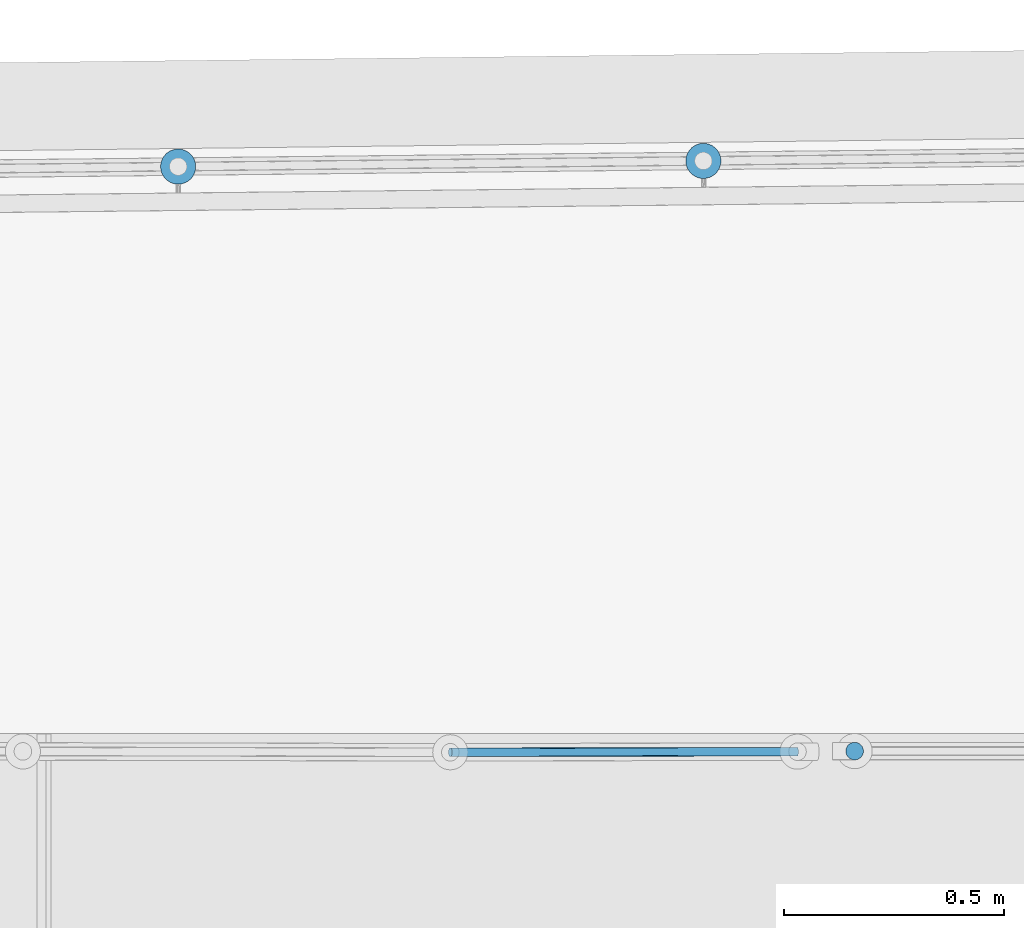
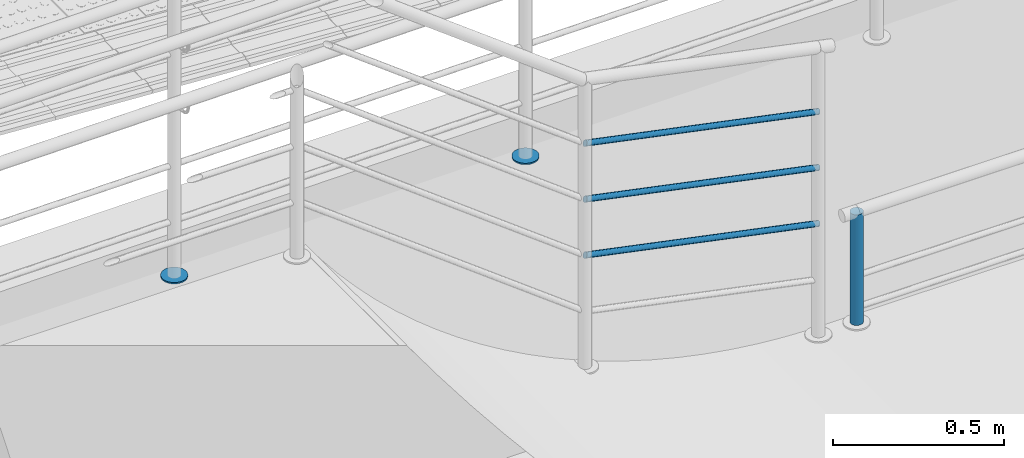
# One storey, part 97 of 237: 6 building element parts, 3 elements without a shape of their own.
"""IFC2X3 building model written with IfcOpenShell, lengths in millimetres."""

from ifc_helpers import new_model, entity, si_unit, converted_unit, derived_unit, money_unit, direction, frame, origin_with_axes, place, context, subcontext, project, spatial, faceted_brep, material, type_object, element, aggregate, save


model = new_model("IFC2X3")

# Units and contexts
model_context = context("Model", 3, precision=0.01, world=origin_with_axes(), true_north=direction((0.0, 1.0)))
body_context = subcontext(model_context, "Body", "Model", "MODEL_VIEW")
ifc_project = project(units=[si_unit("LENGTHUNIT", "METRE", prefix="MILLI"), si_unit("AREAUNIT", "SQUARE_METRE"), si_unit("VOLUMEUNIT", "CUBIC_METRE"), converted_unit("PLANEANGLEUNIT", "DEGREE", entity("IfcPlaneAngleMeasure", 0.0174532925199), si_unit("PLANEANGLEUNIT", "RADIAN"), dimensions=[0, 0, 0, 0, 0, 0, 0]), money_unit("USD"), converted_unit("TIMEUNIT", "Year", entity("IfcTimeMeasure", 31556926.0), si_unit("TIMEUNIT", "SECOND"), dimensions=[0, 0, 1, 0, 0, 0, 0]), si_unit("MASSUNIT", "GRAM", prefix="KILO"), si_unit("THERMODYNAMICTEMPERATUREUNIT", "DEGREE_CELSIUS"), si_unit("LUMINOUSINTENSITYUNIT", "LUMEN"), si_unit("ENERGYUNIT", "JOULE", prefix="MEGA"), derived_unit("THERMALCONDUCTANCEUNIT", [(si_unit("POWERUNIT", "WATT"), 1), (si_unit("LENGTHUNIT", "METRE"), -1), (si_unit("THERMODYNAMICTEMPERATUREUNIT", "KELVIN"), -1)]), derived_unit("SPECIFICHEATCAPACITYUNIT", [(si_unit("ENERGYUNIT", "JOULE"), 1), (si_unit("MASSUNIT", "GRAM", prefix="KILO"), -1), (si_unit("THERMODYNAMICTEMPERATUREUNIT", "KELVIN"), -1)]), derived_unit("MASSDENSITYUNIT", [(si_unit("MASSUNIT", "GRAM", prefix="KILO"), 1), (si_unit("VOLUMEUNIT", "CUBIC_METRE"), -1)])], contexts=[model_context])

# Site, building, storey
site_placement = place(None, origin_with_axes())
site = spatial("IfcSite", under=ifc_project, at=site_placement, Name="Local", CompositionType="ELEMENT")
building_placement = place(site_placement, origin_with_axes())
building = spatial("IfcBuilding", under=site, at=building_placement, Name="Construção", CompositionType="ELEMENT")
storey_placement = place(building_placement, origin_with_axes())
storey = spatial("IfcBuildingStorey", under=building, at=storey_placement, Name="Pavimento Térreo", CompositionType="ELEMENT", Elevation=0.0)

# Railing, building element part
railing_type = type_object("IfcRailingType", Name="Tipo de Guarda-Corpo", PredefinedType="NOTDEFINED")
railing_1_placement = place(storey_placement, frame((57512.4440926, 33894.9362539, -1887.10818411), z_axis=(0.0, 0.0, 1.0), x_axis=(-1.0, 0.0, 0.0)))
railing_1 = element("IfcRailing", 1, at=railing_1_placement, inside=storey, type_object=railing_type, Name="Guarda-Corpo - 002", PredefinedType="NOTDEFINED")
ifc_material_1 = material(Name="Aço - Inoxidável")
building_element_part_1_placement = place(railing_1_placement, origin_with_axes())
building_element_part_1 = element("IfcBuildingElementPart", 2, at=building_element_part_1_placement, material=ifc_material_1, Name="Aço - Inoxidável", context=body_context, shape_type="Brep", body=[
    faceted_brep([(3506.52703645, 20.3038449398, 635.0), (3510.0, 20.0, 635.0), (3510.0, 20.0, 1030.0), (3506.52703645, 20.3038449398, 1030.0), (3513.47296355, 20.3038449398, 635.0), (3503.15959713, 21.2061475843, 635.0), (3500.0, 22.6794919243, 635.0), (3497.14424781, 24.6791111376, 635.0), (3494.67911114, 27.1442478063, 635.0), (3492.67949192, 30.0, 635.0), (3491.20614758, 33.1595971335, 635.0), (3490.30384494, 36.5270364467, 635.0), (3490.0, 40.0, 635.0), (3490.30384494, 43.4729635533, 635.0), (3491.20614758, 46.8404028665, 635.0), (3492.67949192, 50.0, 635.0), (3494.67911114, 52.8557521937, 635.0), (3497.14424781, 55.3208888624, 635.0), (3500.0, 57.3205080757, 635.0), (3503.15959713, 58.7938524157, 635.0), (3506.52703645, 59.6961550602, 635.0), (3510.0, 60.0, 635.0), (3513.47296355, 59.6961550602, 635.0), (3516.84040287, 58.7938524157, 635.0), (3520.0, 57.3205080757, 635.0), (3522.85575219, 55.3208888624, 635.0), (3525.32088886, 52.8557521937, 635.0), (3527.32050808, 50.0, 635.0), (3528.79385242, 46.8404028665, 635.0), (3529.69615506, 43.4729635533, 635.0), (3530.0, 40.0, 635.0), (3529.69615506, 36.5270364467, 635.0), (3528.79385242, 33.1595971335, 635.0), (3527.32050808, 30.0, 635.0), (3525.32088886, 27.1442478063, 635.0), (3522.85575219, 24.6791111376, 635.0), (3520.0, 22.6794919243, 635.0), (3516.84040287, 21.2061475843, 635.0), (3513.47296355, 20.3038449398, 1030.0), (3490.30384494, 43.4729635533, 1030.0), (3490.0, 40.0, 1030.0), (3490.30384494, 36.5270364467, 1030.0), (3491.20614758, 33.1595971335, 1030.0), (3492.67949192, 30.0, 1030.0), (3494.67911114, 27.1442478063, 1030.0), (3497.14424781, 24.6791111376, 1030.0), (3500.0, 22.6794919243, 1030.0), (3503.15959713, 21.2061475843, 1030.0), (3516.84040287, 21.2061475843, 1030.0), (3520.0, 22.6794919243, 1030.0), (3522.85575219, 24.6791111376, 1030.0), (3525.32088886, 27.1442478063, 1030.0), (3527.32050808, 30.0, 1030.0), (3528.79385242, 33.1595971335, 1030.0), (3529.69615506, 36.5270364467, 1030.0), (3530.0, 40.0, 1030.0), (3529.69615506, 43.4729635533, 1030.0), (3528.79385242, 46.8404028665, 1030.0), (3527.32050808, 50.0, 1030.0), (3525.32088886, 52.8557521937, 1030.0), (3522.85575219, 55.3208888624, 1030.0), (3520.0, 57.3205080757, 1030.0), (3516.84040287, 58.7938524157, 1030.0), (3513.47296355, 59.6961550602, 1030.0), (3510.0, 60.0, 1030.0), (3506.52703645, 59.6961550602, 1030.0), (3503.15959713, 58.7938524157, 1030.0), (3500.0, 57.3205080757, 1030.0), (3497.14424781, 55.3208888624, 1030.0), (3494.67911114, 52.8557521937, 1030.0), (3492.67949192, 50.0, 1030.0), (3491.20614758, 46.8404028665, 1030.0)], [[[0, 1, 2, 3]], [[4, 1, 0, 5, 6, 7, 8, 9, 10, 11, 12, 13, 14, 15, 16, 17, 18, 19, 20, 21, 22, 23, 24, 25, 26, 27, 28, 29, 30, 31, 32, 33, 34, 35, 36, 37]], [[1, 4, 38, 2]], [[39, 40, 41, 42, 43, 44, 45, 46, 47, 3, 2, 38, 48, 49, 50, 51, 52, 53, 54, 55, 56, 57, 58, 59, 60, 61, 62, 63, 64, 65, 66, 67, 68, 69, 70, 71]], [[5, 0, 3, 47]], [[6, 5, 47, 46]], [[7, 6, 46, 45]], [[8, 7, 45, 44]], [[9, 8, 44, 43]], [[10, 9, 43, 42]], [[11, 10, 42, 41]], [[12, 11, 41, 40]], [[13, 12, 40, 39]], [[14, 13, 39, 71]], [[15, 14, 71, 70]], [[16, 15, 70, 69]], [[17, 16, 69, 68]], [[18, 17, 68, 67]], [[19, 18, 67, 66]], [[20, 19, 66, 65]], [[21, 20, 65, 64]], [[22, 21, 64, 63]], [[23, 22, 63, 62]], [[24, 23, 62, 61]], [[25, 24, 61, 60]], [[26, 25, 60, 59]], [[27, 26, 59, 58]], [[28, 27, 58, 57]], [[29, 28, 57, 56]], [[30, 29, 56, 55]], [[31, 30, 55, 54]], [[32, 31, 54, 53]], [[33, 32, 53, 52]], [[34, 33, 52, 51]], [[35, 34, 51, 50]], [[36, 35, 50, 49]], [[37, 36, 49, 48]], [[4, 37, 48, 38]]]),
])
aggregate(railing_1, [building_element_part_1])

# Railing, building element parts
railing_2_placement = place(storey_placement, frame((70326.6870103, 28675.2458388, -1357.10819655), z_axis=(0.0, 0.0, 1.0), x_axis=(1.0, 0.0, 0.0)))
railing_2 = element("IfcRailing", 3, at=railing_2_placement, inside=storey, type_object=railing_type, Name="Guarda-Corpo - 004", PredefinedType="NOTDEFINED")
ifc_material_2 = material(Name="Alumínio")
building_element_part_2_placement = place(railing_2_placement, origin_with_axes())
building_element_part_2 = element("IfcBuildingElementPart", 4, at=building_element_part_2_placement, material=ifc_material_2, Name="Alumínio", context=body_context, shape_type="Brep", body=[
    faceted_brep([(-16708.2481164, 6521.63092229, 0.0), (-16707.5649184, 6514.69201527, 0.0), (-16707.5649184, 6514.69201527, 5.0), (-16708.2481164, 6521.63092229, 5.0), (-16707.7160066, 6528.58304783, 0.0), (-16705.9847569, 6535.33715507, 0.0), (-16703.1069702, 6541.68802387, 0.0), (-16699.1700869, 6547.44268629, 0.0), (-16694.2937269, 6552.42628985, 0.0), (-16688.6260562, 6556.48741025, 0.0), (-16682.339284, 6559.50265241, 0.0), (-16675.6244306, 6561.38039973, 0.0), (-16668.6855236, 6562.06359781, 0.0), (-16661.7333981, 6561.53148801, 0.0), (-16654.9792908, 6559.80023822, 0.0), (-16648.628422, 6556.92245159, 0.0), (-16642.8737596, 6552.98556822, 0.0), (-16637.8901561, 6548.10920831, 0.0), (-16633.8290357, 6542.44153758, 0.0), (-16630.8137935, 6536.15476535, 0.0), (-16628.9360462, 6529.43991202, 0.0), (-16628.2528481, 6522.50100499, 0.0), (-16628.7849579, 6515.54887945, 0.0), (-16630.5162077, 6508.79477221, 0.0), (-16633.3939943, 6502.44390341, 0.0), (-16637.3308777, 6496.68924099, 0.0), (-16642.2072376, 6491.70563744, 0.0), (-16647.8749083, 6487.64451703, 0.0), (-16654.1616806, 6484.62927487, 0.0), (-16660.8765339, 6482.75152755, 0.0), (-16667.8154409, 6482.06832947, 0.0), (-16674.7675665, 6482.60043927, 0.0), (-16681.5216737, 6484.33168906, 0.0), (-16687.8725425, 6487.20947569, 0.0), (-16693.6272049, 6491.14635906, 0.0), (-16698.6108085, 6496.02271897, 0.0), (-16702.6719289, 6501.6903897, 0.0), (-16705.687171, 6507.97716193, 0.0), (-16705.687171, 6507.97716193, 5.0), (-16702.6719289, 6501.6903897, 5.0), (-16698.6108085, 6496.02271897, 5.0), (-16693.6272049, 6491.14635906, 5.0), (-16687.8725425, 6487.20947569, 5.0), (-16681.5216737, 6484.33168906, 5.0), (-16674.7675665, 6482.60043927, 5.0), (-16667.8154409, 6482.06832947, 5.0), (-16660.8765339, 6482.75152755, 5.0), (-16654.1616806, 6484.62927487, 5.0), (-16647.8749083, 6487.64451703, 5.0), (-16642.2072376, 6491.70563744, 5.0), (-16637.3308777, 6496.68924099, 5.0), (-16633.3939943, 6502.44390341, 5.0), (-16630.5162077, 6508.79477221, 5.0), (-16628.7849579, 6515.54887945, 5.0), (-16628.2528481, 6522.50100499, 5.0), (-16628.9360462, 6529.43991202, 5.0), (-16630.8137935, 6536.15476535, 5.0), (-16633.8290357, 6542.44153758, 5.0), (-16637.8901561, 6548.10920831, 5.0), (-16642.8737596, 6552.98556822, 5.0), (-16648.628422, 6556.92245159, 5.0), (-16654.9792908, 6559.80023822, 5.0), (-16661.7333981, 6561.53148801, 5.0), (-16668.6855236, 6562.06359781, 5.0), (-16675.6244306, 6561.38039973, 5.0), (-16682.339284, 6559.50265241, 5.0), (-16688.6260562, 6556.48741025, 5.0), (-16694.2937269, 6552.42628985, 5.0), (-16699.1700869, 6547.44268629, 5.0), (-16703.1069702, 6541.68802387, 5.0), (-16705.9847569, 6535.33715507, 5.0), (-16707.7160066, 6528.58304783, 5.0)], [[[0, 1, 2, 3]], [[0, 4, 5, 6, 7, 8, 9, 10, 11, 12, 13, 14, 15, 16, 17, 18, 19, 20, 21, 22, 23, 24, 25, 26, 27, 28, 29, 30, 31, 32, 33, 34, 35, 36, 37, 1]], [[1, 37, 38, 2]], [[3, 2, 38, 39, 40, 41, 42, 43, 44, 45, 46, 47, 48, 49, 50, 51, 52, 53, 54, 55, 56, 57, 58, 59, 60, 61, 62, 63, 64, 65, 66, 67, 68, 69, 70, 71]], [[4, 0, 3, 71]], [[5, 4, 71, 70]], [[6, 5, 70, 69]], [[7, 6, 69, 68]], [[8, 7, 68, 67]], [[9, 8, 67, 66]], [[10, 9, 66, 65]], [[11, 10, 65, 64]], [[12, 11, 64, 63]], [[13, 12, 63, 62]], [[14, 13, 62, 61]], [[15, 14, 61, 60]], [[16, 15, 60, 59]], [[17, 16, 59, 58]], [[18, 17, 58, 57]], [[19, 18, 57, 56]], [[20, 19, 56, 55]], [[21, 20, 55, 54]], [[22, 21, 54, 53]], [[23, 22, 53, 52]], [[24, 23, 52, 51]], [[25, 24, 51, 50]], [[26, 25, 50, 49]], [[27, 26, 49, 48]], [[28, 27, 48, 47]], [[29, 28, 47, 46]], [[30, 29, 46, 45]], [[31, 30, 45, 44]], [[32, 31, 44, 43]], [[33, 32, 43, 42]], [[34, 33, 42, 41]], [[35, 34, 41, 40]], [[36, 35, 40, 39]], [[37, 36, 39, 38]]]),
])
building_element_part_3_placement = place(railing_2_placement, origin_with_axes())
building_element_part_3 = element("IfcBuildingElementPart", 5, at=building_element_part_3_placement, material=ifc_material_2, Name="Alumínio", context=body_context, shape_type="Brep", body=[
    faceted_brep([(-17902.8853431, 6508.63723908, 0.0), (-17902.202145, 6501.69833205, 0.0), (-17902.202145, 6501.69833205, 5.0), (-17902.8853431, 6508.63723908, 5.0), (-17902.3532333, 6515.58936462, 0.0), (-17900.6219835, 6522.34347186, 0.0), (-17897.7441969, 6528.69434066, 0.0), (-17893.8073135, 6534.44900308, 0.0), (-17888.9309536, 6539.43260663, 0.0), (-17883.2632829, 6543.49372704, 0.0), (-17876.9765107, 6546.5089692, 0.0), (-17870.2616573, 6548.38671652, 0.0), (-17863.3227503, 6549.0699146, 0.0), (-17856.3706248, 6548.5378048, 0.0), (-17849.6165175, 6546.80655501, 0.0), (-17843.2656487, 6543.92876838, 0.0), (-17837.5109863, 6539.99188501, 0.0), (-17832.5273828, 6535.11552509, 0.0), (-17828.4662623, 6529.44785437, 0.0), (-17825.4510202, 6523.16108214, 0.0), (-17823.5732729, 6516.4462288, 0.0), (-17822.8900748, 6509.50732178, 0.0), (-17823.4221846, 6502.55519624, 0.0), (-17825.1534344, 6495.801089, 0.0), (-17828.031221, 6489.4502202, 0.0), (-17831.9681044, 6483.69555778, 0.0), (-17836.8444643, 6478.71195422, 0.0), (-17842.512135, 6474.65083382, 0.0), (-17848.7989072, 6471.63559166, 0.0), (-17855.5137606, 6469.75784434, 0.0), (-17862.4526676, 6469.07464626, 0.0), (-17869.4047931, 6469.60675606, 0.0), (-17876.1589004, 6471.33800585, 0.0), (-17882.5097692, 6474.21579248, 0.0), (-17888.2644316, 6478.15267585, 0.0), (-17893.2480352, 6483.02903576, 0.0), (-17897.3091556, 6488.69670649, 0.0), (-17900.3243977, 6494.98347872, 0.0), (-17900.3243977, 6494.98347872, 5.0), (-17897.3091556, 6488.69670649, 5.0), (-17893.2480352, 6483.02903576, 5.0), (-17888.2644316, 6478.15267585, 5.0), (-17882.5097692, 6474.21579248, 5.0), (-17876.1589004, 6471.33800585, 5.0), (-17869.4047931, 6469.60675606, 5.0), (-17862.4526676, 6469.07464626, 5.0), (-17855.5137606, 6469.75784434, 5.0), (-17848.7989072, 6471.63559166, 5.0), (-17842.512135, 6474.65083382, 5.0), (-17836.8444643, 6478.71195422, 5.0), (-17831.9681044, 6483.69555778, 5.0), (-17828.031221, 6489.4502202, 5.0), (-17825.1534344, 6495.801089, 5.0), (-17823.4221846, 6502.55519624, 5.0), (-17822.8900748, 6509.50732178, 5.0), (-17823.5732729, 6516.4462288, 5.0), (-17825.4510202, 6523.16108214, 5.0), (-17828.4662623, 6529.44785437, 5.0), (-17832.5273828, 6535.11552509, 5.0), (-17837.5109863, 6539.99188501, 5.0), (-17843.2656487, 6543.92876838, 5.0), (-17849.6165175, 6546.80655501, 5.0), (-17856.3706248, 6548.5378048, 5.0), (-17863.3227503, 6549.0699146, 5.0), (-17870.2616573, 6548.38671652, 5.0), (-17876.9765107, 6546.5089692, 5.0), (-17883.2632829, 6543.49372704, 5.0), (-17888.9309536, 6539.43260663, 5.0), (-17893.8073135, 6534.44900308, 5.0), (-17897.7441969, 6528.69434066, 5.0), (-17900.6219835, 6522.34347186, 5.0), (-17902.3532333, 6515.58936462, 5.0)], [[[0, 1, 2, 3]], [[0, 4, 5, 6, 7, 8, 9, 10, 11, 12, 13, 14, 15, 16, 17, 18, 19, 20, 21, 22, 23, 24, 25, 26, 27, 28, 29, 30, 31, 32, 33, 34, 35, 36, 37, 1]], [[1, 37, 38, 2]], [[3, 2, 38, 39, 40, 41, 42, 43, 44, 45, 46, 47, 48, 49, 50, 51, 52, 53, 54, 55, 56, 57, 58, 59, 60, 61, 62, 63, 64, 65, 66, 67, 68, 69, 70, 71]], [[4, 0, 3, 71]], [[5, 4, 71, 70]], [[6, 5, 70, 69]], [[7, 6, 69, 68]], [[8, 7, 68, 67]], [[9, 8, 67, 66]], [[10, 9, 66, 65]], [[11, 10, 65, 64]], [[12, 11, 64, 63]], [[13, 12, 63, 62]], [[14, 13, 62, 61]], [[15, 14, 61, 60]], [[16, 15, 60, 59]], [[17, 16, 59, 58]], [[18, 17, 58, 57]], [[19, 18, 57, 56]], [[20, 19, 56, 55]], [[21, 20, 55, 54]], [[22, 21, 54, 53]], [[23, 22, 53, 52]], [[24, 23, 52, 51]], [[25, 24, 51, 50]], [[26, 25, 50, 49]], [[27, 26, 49, 48]], [[28, 27, 48, 47]], [[29, 28, 47, 46]], [[30, 29, 46, 45]], [[31, 30, 45, 44]], [[32, 31, 44, 43]], [[33, 32, 43, 42]], [[34, 33, 42, 41]], [[35, 34, 41, 40]], [[36, 35, 40, 39]], [[37, 36, 39, 38]]]),
])
aggregate(railing_2, [building_element_part_2, building_element_part_3])

railing_3_placement = place(storey_placement, frame((53912.4440926, 33356.4497128, -1263.04952679), z_axis=(0.0, 0.0, 1.0), x_axis=(1.0, 0.0, 0.0)))
railing_3 = element("IfcRailing", 6, at=railing_3_placement, inside=storey, type_object=railing_type, Name="Guarda-Corpo - 001", PredefinedType="NOTDEFINED")
building_element_part_4_placement = place(railing_3_placement, origin_with_axes())
building_element_part_4 = element("IfcBuildingElementPart", 7, at=building_element_part_4_placement, material=ifc_material_1, Name="Aço - Inoxidável", context=body_context, shape_type="Brep", body=[
    faceted_brep([(-39.9147243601, 487.140492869, 408.301250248), (-39.5621280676, 487.293016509, 410.001503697), (-828.94174093, 485.946418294, 573.819299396), (-40.267838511, 487.291813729, 406.600996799), (-40.6107413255, 487.742381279, 404.95240469), (-40.933013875, 488.478505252, 403.40556556), (-41.2248640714, 489.477818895, 402.007479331), (-41.4774241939, 490.709958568, 400.800626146), (-41.6830203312, 492.13748633, 399.82167563), (-41.8354055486, 493.717027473, 399.100372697), (-41.9299496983, 495.400588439, 398.658633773), (-41.9637801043, 497.137015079, 398.509880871), (-41.9358688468, 498.873546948, 398.658633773), (-41.8470639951, 500.557420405, 399.100372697), (-41.7000638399, 502.137471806, 399.82167563), (-41.4993349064, 503.56569209, 400.800626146), (-41.2509762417, 504.798685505, 402.007479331), (-40.9625340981, 505.798988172, 403.40556556), (-40.6427726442, 506.536206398, 404.95240469), (-40.30140767, 506.987940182, 406.600996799), (-39.9488113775, 507.140463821, 408.301250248), (-39.5956972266, 506.989142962, 410.001503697), (-39.2527944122, 506.538575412, 411.650095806), (-38.9305218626, 505.802451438, 413.196934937), (-38.6386716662, 504.803137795, 414.595021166), (-38.3861115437, 503.570998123, 415.80187435), (-38.1805154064, 502.14347036, 416.780824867), (-38.0281301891, 500.563929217, 417.502127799), (-37.9335860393, 498.880368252, 417.943866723), (-37.8997556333, 497.143941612, 418.092619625), (-37.9276668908, 495.407409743, 417.943866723), (-38.0164717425, 493.723536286, 417.502127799), (-38.1634718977, 492.143484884, 416.780824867), (-38.3642008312, 490.715264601, 415.80187435), (-38.612559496, 489.482271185, 414.595021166), (-38.9010016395, 488.481968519, 413.196934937), (-39.2207630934, 487.744750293, 411.650095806), (-828.229281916, 486.397604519, 575.391032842), (-829.676541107, 485.79446024, 572.198313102), (-830.411355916, 485.946347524, 570.577326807), (-831.12385838, 486.397465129, 569.005593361), (-831.792399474, 487.134106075, 567.530869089), (-832.396665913, 488.133887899, 566.197962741), (-832.918297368, 489.366432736, 565.047374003), (-833.341444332, 490.794290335, 564.11406293), (-833.653249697, 492.374075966, 563.426387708), (-833.844239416, 494.057788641, 563.005243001), (-833.908610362, 495.794269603, 562.863425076), (-833.844406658, 497.530756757, 563.005243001), (-833.653579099, 499.214487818, 563.426387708), (-833.341925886, 500.794303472, 564.11406293), (-832.918916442, 502.222201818, 565.047374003), (-832.397403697, 503.454796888, 566.197962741), (-831.79323355, 504.454636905, 567.530869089), (-831.124763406, 505.191342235, 569.005593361), (-830.412304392, 505.642528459, 570.577326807), (-829.677504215, 505.794486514, 572.198313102), (-828.942689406, 505.642599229, 573.819299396), (-828.230186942, 505.191481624, 575.391032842), (-827.561645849, 504.454840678, 576.865757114), (-826.957379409, 503.455058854, 578.198663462), (-826.435747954, 502.222514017, 579.349252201), (-826.012600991, 500.794656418, 580.282563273), (-825.700795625, 499.214870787, 580.970238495), (-825.509805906, 497.531158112, 581.391383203), (-825.44543496, 495.79467715, 581.533201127), (-825.509638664, 494.058189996, 581.391383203), (-825.700466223, 492.374458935, 580.970238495), (-826.012119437, 490.794643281, 580.282563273), (-826.43512888, 489.366744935, 579.349252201), (-826.956641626, 488.134149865, 578.198663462), (-827.560811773, 487.134309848, 576.865757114)], [[[0, 1, 2]], [[0, 3, 4, 5, 6, 7, 8, 9, 10, 11, 12, 13, 14, 15, 16, 17, 18, 19, 20, 21, 22, 23, 24, 25, 26, 27, 28, 29, 30, 31, 32, 33, 34, 35, 36, 1]], [[1, 37, 2]], [[0, 2, 38]], [[3, 0, 38]], [[4, 3, 39]], [[5, 4, 40]], [[6, 5, 41]], [[7, 6, 42]], [[8, 7, 43]], [[9, 8, 44]], [[10, 9, 45]], [[11, 10, 46]], [[12, 11, 47]], [[13, 12, 48]], [[14, 13, 49]], [[15, 14, 50]], [[16, 15, 51]], [[17, 16, 52]], [[18, 17, 53]], [[19, 18, 54]], [[20, 19, 55]], [[21, 20, 56]], [[22, 21, 57]], [[23, 22, 58]], [[24, 23, 59]], [[25, 24, 60]], [[26, 25, 61]], [[27, 26, 62]], [[28, 27, 63]], [[29, 28, 64]], [[30, 29, 65]], [[31, 30, 66]], [[32, 31, 67]], [[33, 32, 68]], [[34, 33, 69]], [[35, 34, 70]], [[36, 35, 71]], [[1, 36, 37]], [[38, 2, 37, 71, 70, 69, 68, 67, 66, 65, 64, 63, 62, 61, 60, 59, 58, 57, 56, 55, 54, 53, 52, 51, 50, 49, 48, 47, 46, 45, 44, 43, 42, 41, 40, 39]], [[3, 38, 39]], [[4, 39, 40]], [[5, 40, 41]], [[6, 41, 42]], [[7, 42, 43]], [[8, 43, 44]], [[9, 44, 45]], [[10, 45, 46]], [[11, 46, 47]], [[12, 47, 48]], [[13, 48, 49]], [[14, 49, 50]], [[15, 50, 51]], [[16, 51, 52]], [[17, 52, 53]], [[18, 53, 54]], [[19, 54, 55]], [[20, 55, 56]], [[21, 56, 57]], [[22, 57, 58]], [[23, 58, 59]], [[24, 59, 60]], [[25, 60, 61]], [[26, 61, 62]], [[27, 62, 63]], [[28, 63, 64]], [[29, 64, 65]], [[30, 65, 66]], [[31, 66, 67]], [[32, 67, 68]], [[33, 68, 69]], [[34, 69, 70]], [[35, 70, 71]], [[36, 71, 37]]]),
])
building_element_part_5_placement = place(railing_3_placement, origin_with_axes())
building_element_part_5 = element("IfcBuildingElementPart", 8, at=building_element_part_5_placement, material=ifc_material_1, Name="Aço - Inoxidável", context=body_context, shape_type="Brep", body=[
    faceted_brep([(-39.9147243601, 487.140492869, 608.301250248), (-39.5621280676, 487.293016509, 610.001503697), (-828.94174093, 485.946418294, 773.819299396), (-40.267838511, 487.291813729, 606.600996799), (-40.6107413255, 487.742381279, 604.95240469), (-40.933013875, 488.478505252, 603.40556556), (-41.2248640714, 489.477818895, 602.007479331), (-41.4774241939, 490.709958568, 600.800626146), (-41.6830203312, 492.13748633, 599.82167563), (-41.8354055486, 493.717027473, 599.100372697), (-41.9299496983, 495.400588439, 598.658633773), (-41.9637801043, 497.137015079, 598.509880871), (-41.9358688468, 498.873546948, 598.658633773), (-41.8470639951, 500.557420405, 599.100372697), (-41.7000638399, 502.137471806, 599.82167563), (-41.4993349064, 503.56569209, 600.800626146), (-41.2509762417, 504.798685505, 602.007479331), (-40.9625340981, 505.798988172, 603.40556556), (-40.6427726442, 506.536206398, 604.95240469), (-40.30140767, 506.987940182, 606.600996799), (-39.9488113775, 507.140463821, 608.301250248), (-39.5956972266, 506.989142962, 610.001503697), (-39.2527944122, 506.538575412, 611.650095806), (-38.9305218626, 505.802451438, 613.196934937), (-38.6386716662, 504.803137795, 614.595021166), (-38.3861115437, 503.570998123, 615.80187435), (-38.1805154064, 502.14347036, 616.780824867), (-38.0281301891, 500.563929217, 617.502127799), (-37.9335860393, 498.880368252, 617.943866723), (-37.8997556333, 497.143941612, 618.092619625), (-37.9276668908, 495.407409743, 617.943866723), (-38.0164717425, 493.723536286, 617.502127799), (-38.1634718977, 492.143484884, 616.780824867), (-38.3642008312, 490.715264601, 615.80187435), (-38.612559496, 489.482271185, 614.595021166), (-38.9010016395, 488.481968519, 613.196934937), (-39.2207630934, 487.744750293, 611.650095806), (-828.229281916, 486.397604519, 775.391032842), (-829.676541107, 485.79446024, 772.198313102), (-830.411355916, 485.946347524, 770.577326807), (-831.12385838, 486.397465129, 769.005593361), (-831.792399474, 487.134106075, 767.530869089), (-832.396665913, 488.133887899, 766.197962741), (-832.918297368, 489.366432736, 765.047374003), (-833.341444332, 490.794290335, 764.11406293), (-833.653249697, 492.374075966, 763.426387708), (-833.844239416, 494.057788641, 763.005243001), (-833.908610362, 495.794269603, 762.863425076), (-833.844406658, 497.530756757, 763.005243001), (-833.653579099, 499.214487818, 763.426387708), (-833.341925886, 500.794303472, 764.11406293), (-832.918916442, 502.222201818, 765.047374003), (-832.397403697, 503.454796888, 766.197962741), (-831.79323355, 504.454636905, 767.530869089), (-831.124763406, 505.191342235, 769.005593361), (-830.412304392, 505.642528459, 770.577326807), (-829.677504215, 505.794486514, 772.198313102), (-828.942689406, 505.642599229, 773.819299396), (-828.230186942, 505.191481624, 775.391032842), (-827.561645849, 504.454840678, 776.865757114), (-826.957379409, 503.455058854, 778.198663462), (-826.435747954, 502.222514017, 779.349252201), (-826.012600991, 500.794656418, 780.282563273), (-825.700795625, 499.214870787, 780.970238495), (-825.509805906, 497.531158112, 781.391383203), (-825.44543496, 495.79467715, 781.533201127), (-825.509638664, 494.058189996, 781.391383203), (-825.700466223, 492.374458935, 780.970238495), (-826.012119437, 490.794643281, 780.282563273), (-826.43512888, 489.366744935, 779.349252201), (-826.956641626, 488.134149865, 778.198663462), (-827.560811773, 487.134309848, 776.865757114)], [[[0, 1, 2]], [[0, 3, 4, 5, 6, 7, 8, 9, 10, 11, 12, 13, 14, 15, 16, 17, 18, 19, 20, 21, 22, 23, 24, 25, 26, 27, 28, 29, 30, 31, 32, 33, 34, 35, 36, 1]], [[1, 37, 2]], [[0, 2, 38]], [[3, 0, 38]], [[4, 3, 39]], [[5, 4, 40]], [[6, 5, 41]], [[7, 6, 42]], [[8, 7, 43]], [[9, 8, 44]], [[10, 9, 45]], [[11, 10, 46]], [[12, 11, 47]], [[13, 12, 48]], [[14, 13, 49]], [[15, 14, 50]], [[16, 15, 51]], [[17, 16, 52]], [[18, 17, 53]], [[19, 18, 54]], [[20, 19, 55]], [[21, 20, 56]], [[22, 21, 57]], [[23, 22, 58]], [[24, 23, 59]], [[25, 24, 60]], [[26, 25, 61]], [[27, 26, 62]], [[28, 27, 63]], [[29, 28, 64]], [[30, 29, 65]], [[31, 30, 66]], [[32, 31, 67]], [[33, 32, 68]], [[34, 33, 69]], [[35, 34, 70]], [[36, 35, 71]], [[1, 36, 37]], [[38, 2, 37, 71, 70, 69, 68, 67, 66, 65, 64, 63, 62, 61, 60, 59, 58, 57, 56, 55, 54, 53, 52, 51, 50, 49, 48, 47, 46, 45, 44, 43, 42, 41, 40, 39]], [[3, 38, 39]], [[4, 39, 40]], [[5, 40, 41]], [[6, 41, 42]], [[7, 42, 43]], [[8, 43, 44]], [[9, 44, 45]], [[10, 45, 46]], [[11, 46, 47]], [[12, 47, 48]], [[13, 48, 49]], [[14, 49, 50]], [[15, 50, 51]], [[16, 51, 52]], [[17, 52, 53]], [[18, 53, 54]], [[19, 54, 55]], [[20, 55, 56]], [[21, 56, 57]], [[22, 57, 58]], [[23, 58, 59]], [[24, 59, 60]], [[25, 60, 61]], [[26, 61, 62]], [[27, 62, 63]], [[28, 63, 64]], [[29, 64, 65]], [[30, 65, 66]], [[31, 66, 67]], [[32, 67, 68]], [[33, 68, 69]], [[34, 69, 70]], [[35, 70, 71]], [[36, 71, 37]]]),
])
building_element_part_6_placement = place(railing_3_placement, origin_with_axes())
building_element_part_6 = element("IfcBuildingElementPart", 9, at=building_element_part_6_placement, material=ifc_material_1, Name="Aço - Inoxidável", context=body_context, shape_type="Brep", body=[
    faceted_brep([(-39.9147243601, 487.140492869, 808.301250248), (-39.5621280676, 487.293016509, 810.001503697), (-828.94174093, 485.946418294, 973.819299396), (-40.267838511, 487.291813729, 806.600996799), (-40.6107413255, 487.742381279, 804.95240469), (-40.933013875, 488.478505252, 803.40556556), (-41.2248640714, 489.477818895, 802.007479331), (-41.4774241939, 490.709958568, 800.800626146), (-41.6830203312, 492.13748633, 799.82167563), (-41.8354055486, 493.717027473, 799.100372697), (-41.9299496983, 495.400588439, 798.658633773), (-41.9637801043, 497.137015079, 798.509880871), (-41.9358688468, 498.873546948, 798.658633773), (-41.8470639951, 500.557420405, 799.100372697), (-41.7000638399, 502.137471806, 799.82167563), (-41.4993349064, 503.56569209, 800.800626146), (-41.2509762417, 504.798685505, 802.007479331), (-40.9625340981, 505.798988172, 803.40556556), (-40.6427726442, 506.536206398, 804.95240469), (-40.30140767, 506.987940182, 806.600996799), (-39.9488113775, 507.140463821, 808.301250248), (-39.5956972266, 506.989142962, 810.001503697), (-39.2527944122, 506.538575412, 811.650095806), (-38.9305218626, 505.802451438, 813.196934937), (-38.6386716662, 504.803137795, 814.595021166), (-38.3861115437, 503.570998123, 815.80187435), (-38.1805154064, 502.14347036, 816.780824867), (-38.0281301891, 500.563929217, 817.502127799), (-37.9335860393, 498.880368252, 817.943866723), (-37.8997556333, 497.143941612, 818.092619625), (-37.9276668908, 495.407409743, 817.943866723), (-38.0164717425, 493.723536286, 817.502127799), (-38.1634718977, 492.143484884, 816.780824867), (-38.3642008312, 490.715264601, 815.80187435), (-38.612559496, 489.482271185, 814.595021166), (-38.9010016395, 488.481968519, 813.196934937), (-39.2207630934, 487.744750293, 811.650095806), (-828.229281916, 486.397604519, 975.391032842), (-829.676541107, 485.79446024, 972.198313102), (-830.411355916, 485.946347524, 970.577326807), (-831.12385838, 486.397465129, 969.005593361), (-831.792399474, 487.134106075, 967.530869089), (-832.396665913, 488.133887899, 966.197962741), (-832.918297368, 489.366432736, 965.047374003), (-833.341444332, 490.794290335, 964.11406293), (-833.653249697, 492.374075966, 963.426387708), (-833.844239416, 494.057788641, 963.005243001), (-833.908610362, 495.794269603, 962.863425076), (-833.844406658, 497.530756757, 963.005243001), (-833.653579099, 499.214487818, 963.426387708), (-833.341925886, 500.794303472, 964.11406293), (-832.918916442, 502.222201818, 965.047374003), (-832.397403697, 503.454796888, 966.197962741), (-831.79323355, 504.454636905, 967.530869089), (-831.124763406, 505.191342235, 969.005593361), (-830.412304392, 505.642528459, 970.577326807), (-829.677504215, 505.794486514, 972.198313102), (-828.942689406, 505.642599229, 973.819299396), (-828.230186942, 505.191481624, 975.391032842), (-827.561645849, 504.454840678, 976.865757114), (-826.957379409, 503.455058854, 978.198663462), (-826.435747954, 502.222514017, 979.349252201), (-826.012600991, 500.794656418, 980.282563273), (-825.700795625, 499.214870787, 980.970238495), (-825.509805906, 497.531158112, 981.391383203), (-825.44543496, 495.79467715, 981.533201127), (-825.509638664, 494.058189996, 981.391383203), (-825.700466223, 492.374458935, 980.970238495), (-826.012119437, 490.794643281, 980.282563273), (-826.43512888, 489.366744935, 979.349252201), (-826.956641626, 488.134149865, 978.198663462), (-827.560811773, 487.134309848, 976.865757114)], [[[0, 1, 2]], [[0, 3, 4, 5, 6, 7, 8, 9, 10, 11, 12, 13, 14, 15, 16, 17, 18, 19, 20, 21, 22, 23, 24, 25, 26, 27, 28, 29, 30, 31, 32, 33, 34, 35, 36, 1]], [[1, 37, 2]], [[0, 2, 38]], [[3, 0, 38]], [[4, 3, 39]], [[5, 4, 40]], [[6, 5, 41]], [[7, 6, 42]], [[8, 7, 43]], [[9, 8, 44]], [[10, 9, 45]], [[11, 10, 46]], [[12, 11, 47]], [[13, 12, 48]], [[14, 13, 49]], [[15, 14, 50]], [[16, 15, 51]], [[17, 16, 52]], [[18, 17, 53]], [[19, 18, 54]], [[20, 19, 55]], [[21, 20, 56]], [[22, 21, 57]], [[23, 22, 58]], [[24, 23, 59]], [[25, 24, 60]], [[26, 25, 61]], [[27, 26, 62]], [[28, 27, 63]], [[29, 28, 64]], [[30, 29, 65]], [[31, 30, 66]], [[32, 31, 67]], [[33, 32, 68]], [[34, 33, 69]], [[35, 34, 70]], [[36, 35, 71]], [[1, 36, 37]], [[38, 2, 37, 71, 70, 69, 68, 67, 66, 65, 64, 63, 62, 61, 60, 59, 58, 57, 56, 55, 54, 53, 52, 51, 50, 49, 48, 47, 46, 45, 44, 43, 42, 41, 40, 39]], [[3, 38, 39]], [[4, 39, 40]], [[5, 40, 41]], [[6, 41, 42]], [[7, 42, 43]], [[8, 43, 44]], [[9, 44, 45]], [[10, 45, 46]], [[11, 46, 47]], [[12, 47, 48]], [[13, 48, 49]], [[14, 49, 50]], [[15, 50, 51]], [[16, 51, 52]], [[17, 52, 53]], [[18, 53, 54]], [[19, 54, 55]], [[20, 55, 56]], [[21, 56, 57]], [[22, 57, 58]], [[23, 58, 59]], [[24, 59, 60]], [[25, 60, 61]], [[26, 61, 62]], [[27, 62, 63]], [[28, 63, 64]], [[29, 64, 65]], [[30, 65, 66]], [[31, 66, 67]], [[32, 67, 68]], [[33, 68, 69]], [[34, 69, 70]], [[35, 70, 71]], [[36, 71, 37]]]),
])
aggregate(railing_3, [building_element_part_4, building_element_part_5, building_element_part_6])

save(model, "model.ifc")
